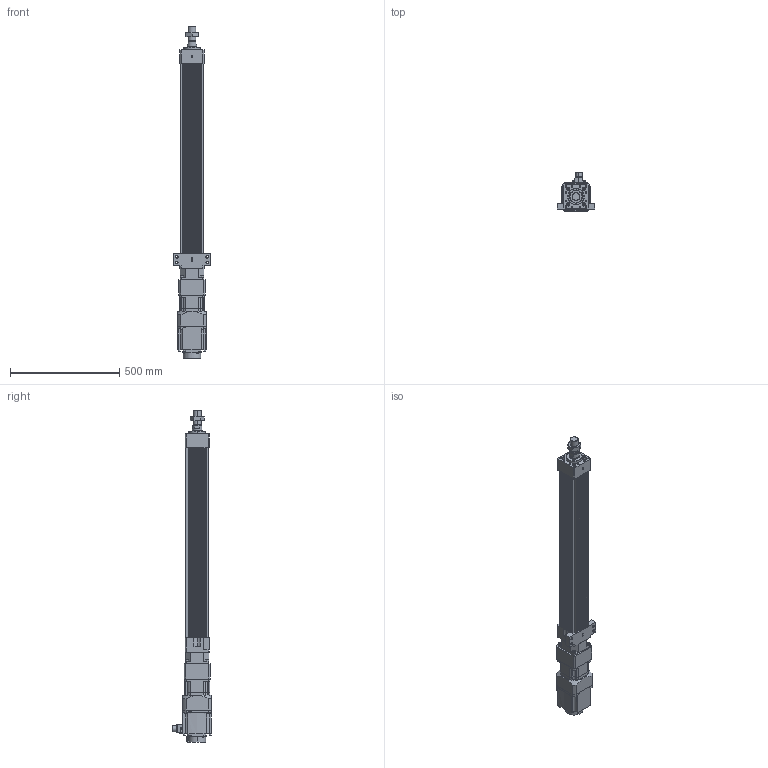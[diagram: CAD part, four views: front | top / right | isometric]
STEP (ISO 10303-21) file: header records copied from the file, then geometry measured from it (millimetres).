
FILE_DESCRIPTION (( 'STEP AP203' ), '1' );
FILE_NAME ('HES110NS(HS)-S700-W015G00-M-FFC.STEP', '2023-01-28T05:47:02', ( 'tms' ), ( '' ), 'SwSTEP 2.0', 'SolidWorks 2013', '' );
FILE_SCHEMA (( 'CONFIG_CONTROL_DESIGN' ));
Length unit declared in the file: millimetre
Products named in the file (8): AB115-003[HG-SR152]; HES110NS(HS)-S700-W015G00-M-FFC; HES110 ROD M ST700; P0401400706; AB1151; HG-SR152; M36X1.5P; HES110-S700-G120-FFC
Assembly tree (7 placements, depth 3):
  HES110NS(HS)-S700-W015G00-M-FFC
    HES110-S700-G120-FFC
    HES110 ROD M ST700
    M36X1.5P
    AB115-003[HG-SR152]
      AB1151
      P0401400706
    HG-SR152
Bounding box: 170 x 177.49 x 1521.5 mm (x, y, z)
Volume: 9710134.6 mm3; surface area: 1397113.1 mm2
Topology: 4 solids, 15 shells, 1222 faces, 3083 edges, 1988 vertices
Faces by surface type: plane 557, cylinder 549, cone 104, bspline 8, torus 4
Entity records: 38313 total; most frequent: CARTESIAN_POINT 7246, DIRECTION 6648, ORIENTED_EDGE 6070, EDGE_CURVE 3045, AXIS2_PLACEMENT_3D 2450, VERTEX_POINT 1988, LINE 1748, VECTOR 1748
